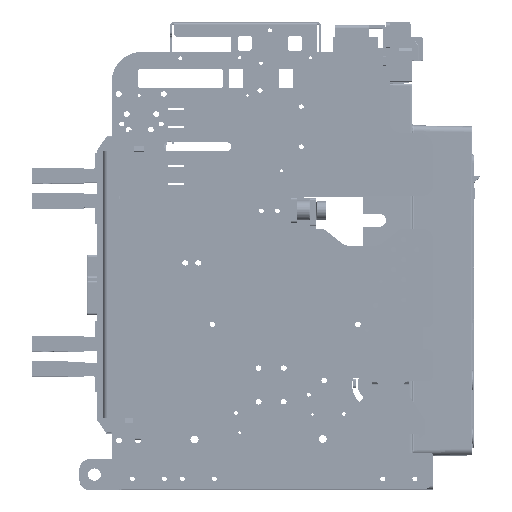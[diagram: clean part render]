
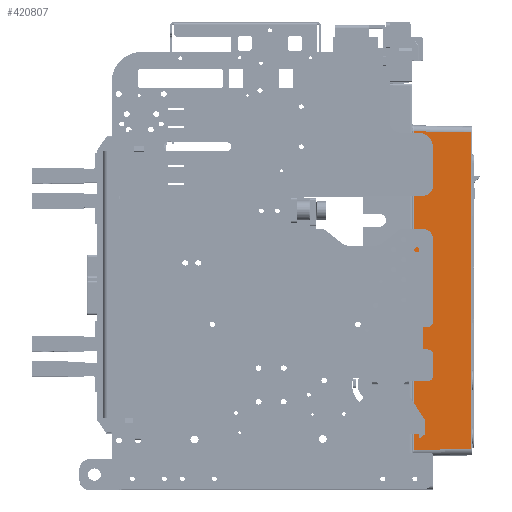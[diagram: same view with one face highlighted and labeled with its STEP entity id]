
A CAD part, top view. The second image highlights one B-rep face of the part: STEP entity #420807.
In plain terms, the highlighted planar face has unit normal (0.018, 0, 1) as drawn and (-1, 0, 0.017) by its records, which use the part's own axes.
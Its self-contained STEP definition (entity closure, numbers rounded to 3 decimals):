
#402187=DIRECTION('',(0.,-1.,0.));
#402188=VECTOR('',#402187,315.942);
#402189=CARTESIAN_POINT('',(-133.97,144.321,
108.017));
#402190=LINE('',#402189,#402188);
#402191=DIRECTION('',(0.017,0.017,1.));
#402192=VECTOR('',#402191,57.07);
#402193=CARTESIAN_POINT('',(-134.966,-172.617,
50.965));
#402194=LINE('',#402193,#402192);
#402195=DIRECTION('',(0.,1.,0.));
#402196=VECTOR('',#402195,317.934);
#402197=CARTESIAN_POINT('',(-134.966,-172.617,
50.965));
#402198=LINE('',#402197,#402196);
#402199=DIRECTION('',(-0.017,0.017,-1.));
#402200=VECTOR('',#402199,57.07);
#402201=CARTESIAN_POINT('',(-133.97,144.321,
108.017));
#402202=LINE('',#402201,#402200);
#416791=CARTESIAN_POINT('',(-133.97,144.321,
108.017));
#419782=CARTESIAN_POINT('',(-134.966,-172.617,
50.965));
#419783=CARTESIAN_POINT('',(-134.966,145.317,
50.965));
#419784=VERTEX_POINT('',#419782);
#419785=VERTEX_POINT('',#419783);
#419823=VERTEX_POINT('',#416791);
#419826=CARTESIAN_POINT('',(-133.97,-171.621,
108.017));
#419827=VERTEX_POINT('',#419826);
#420793=CARTESIAN_POINT('',(-135.,151.35,49.));
#420794=DIRECTION('',(-1.,0.,0.017));
#420795=DIRECTION('',(0.,-1.,0.));
#420796=AXIS2_PLACEMENT_3D('',#420793,#420794,#420795);
#420797=PLANE('',#420796);
#420799=ORIENTED_EDGE('',*,*,#420798,.T.);
#420801=ORIENTED_EDGE('',*,*,#420800,.F.);
#420802=ORIENTED_EDGE('',*,*,#420783,.T.);
#420804=ORIENTED_EDGE('',*,*,#420803,.F.);
#420805=EDGE_LOOP('',(#420799,#420801,#420802,#420804));
#420806=FACE_OUTER_BOUND('',#420805,.F.);
#420807=ADVANCED_FACE('',(#420806),#420797,.T.);
#420783=EDGE_CURVE('',#419784,#419785,#402198,.T.);
#420798=EDGE_CURVE('',#419823,#419827,#402190,.T.);
#420800=EDGE_CURVE('',#419784,#419827,#402194,.T.);
#420803=EDGE_CURVE('',#419823,#419785,#402202,.T.);
